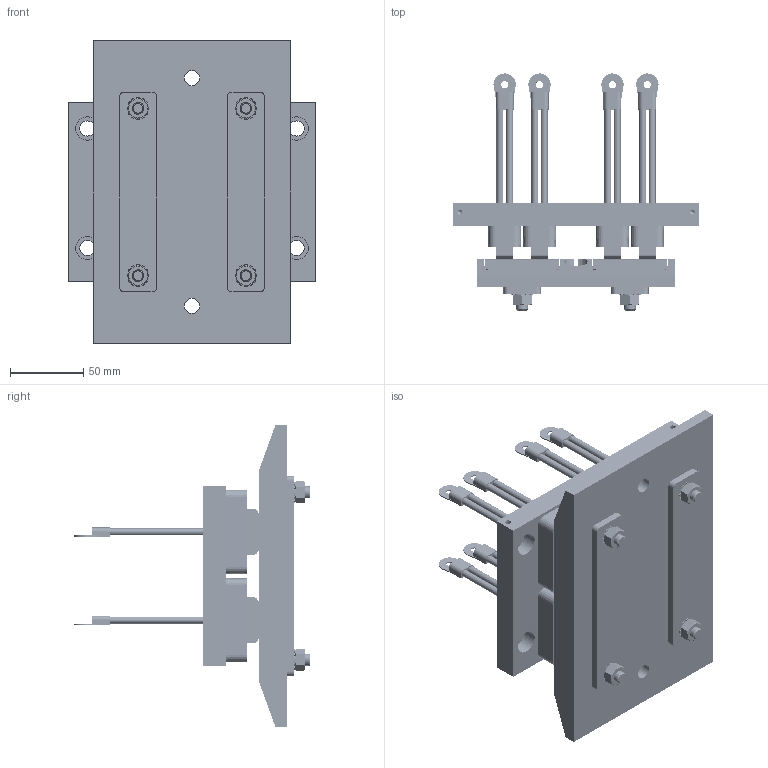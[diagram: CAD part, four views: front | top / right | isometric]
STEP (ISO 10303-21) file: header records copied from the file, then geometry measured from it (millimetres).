
FILE_DESCRIPTION (( 'STEP AP214' ), '1' );
FILE_NAME ('XA-BCL300A2WO.STEP', '2016-09-16T20:48:12', ( 'admin' ), ( 'Microsoft' ), 'SwSTEP 2.0', 'SolidWorks 2014', '' );
FILE_SCHEMA (( 'AUTOMOTIVE_DESIGN' ));
Length unit declared in the file: inch
Products named in the file (16): XA-564394; XA-564381_DEFAULT; XA-562700_default; XA-562732; XA-564450; XA-BCB300A2WO; XA-100289_B18.2.4.1M - Hex nut, Style 1,  M8 x 1.25 --D-C; XA-565023_XA-565023B; XA-564382_B18.3.5M - 8 x 1.25 x 35 Socket FCHS  -- 35C; XA-564384_B18.21.2M-External Tooth Lock Washers_AM8; XA-564460; XA-564459; XA-564454; XA-BCL300A2WO; XA-BCC300A2WO; XA-564824_default
Assembly tree (88 placements, depth 3):
  XA-BCL300A2WO
    XA-BCB300A2WO
      XA-564454
      XA-564459  x2
      XA-564460  x2
      XA-564384_B18.21.2M-External Tooth Lock Washers_AM8  x4
      XA-564382_B18.3.5M - 8 x 1.25 x 35 Socket FCHS  -- 35C  x4
      XA-565023_XA-565023B  x4
      XA-100289_B18.2.4.1M - Hex nut, Style 1,  M8 x 1.25 --D-C  x4
    XA-BCC300A2WO
      XA-564450
      XA-562732  x8
      XA-562700_default  x8
      XA-564381_DEFAULT  x16
      XA-564394  x16
      XA-564824_default  x16
Bounding box: 168.28 x 161.8 x 206.38 mm (x, y, z)
Volume: 982591.6 mm3; surface area: 325880.4 mm2
Topology: 86 solids, 102 shells, 2354 faces, 5698 edges, 3588 vertices
Faces by surface type: plane 1094, cylinder 652, cone 408, bspline 160, torus 40
Entity records: 25874 total; most frequent: CARTESIAN_POINT 10015, DIRECTION 3221, ORIENTED_EDGE 2794, EDGE_CURVE 1397, AXIS2_PLACEMENT_3D 1226, VERTEX_POINT 900, VECTOR 769, LINE 769
